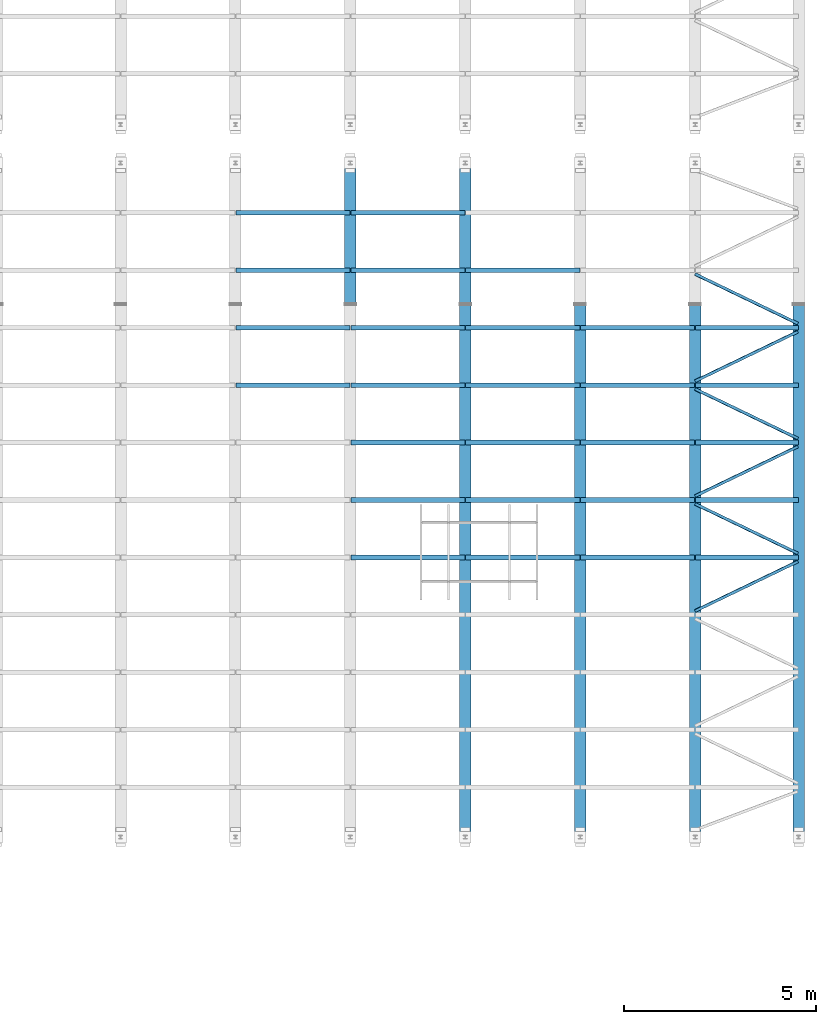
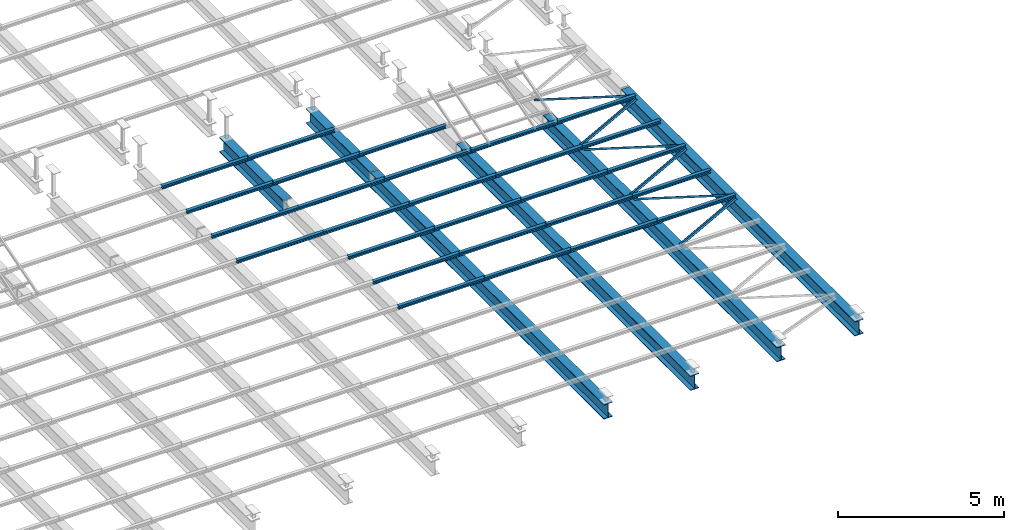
# One storey, part 76 of 139: 39 beams.
"""IFC2X3 building model written with IfcOpenShell, lengths in metres."""

from ifc_helpers import new_model, entity, si_unit, converted_unit, derived_unit, frame, origin, place, context, subcontext, project, spatial, polyline, outline, extrude, material, element, save


model = new_model("IFC2X3")

# Units and contexts
model_context = context("Model", 3, precision=1e-05, world=origin())
body_context = subcontext(model_context, "Body", "Model", "MODEL_VIEW")
ifc_project = project(units=[si_unit("LENGTHUNIT", "METRE"), si_unit("AREAUNIT", "SQUARE_METRE"), si_unit("VOLUMEUNIT", "CUBIC_METRE"), si_unit("MASSUNIT", "GRAM", prefix="KILO"), converted_unit("PLANEANGLEUNIT", "DEGREE", entity("IfcPlaneAngleMeasure", 0.0174532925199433), si_unit("PLANEANGLEUNIT", "RADIAN"), dimensions=[0, 0, 0, 0, 0, 0, 0]), derived_unit("THERMALTRANSMITTANCEUNIT", [(si_unit("POWERUNIT", "WATT"), 1), (si_unit("THERMODYNAMICTEMPERATUREUNIT", "KELVIN"), -1), (si_unit("LENGTHUNIT", "METRE"), -2)]), derived_unit("VOLUMETRICFLOWRATEUNIT", [(si_unit("LENGTHUNIT", "METRE"), 3), (converted_unit("TIMEUNIT", "hour", entity("IfcTimeMeasure", 3600.0), si_unit("TIMEUNIT", "SECOND"), dimensions=[0, 0, 1, 0, 0, 0, 0]), -1), (si_unit("LENGTHUNIT", "METRE"), -1)])], contexts=[model_context])

# Site, building, storey
site_placement = place(None, origin())
site = spatial("IfcSite", under=ifc_project, at=site_placement, Name="TWP_Speiseverteilzentrum SBW VZ II", CompositionType="ELEMENT")
building_placement = place(site_placement, origin())
building = spatial("IfcBuilding", under=site, at=building_placement, Name="Speiseverteilzentrum SBW VZ II", CompositionType="ELEMENT")
storey_placement = place(building_placement, frame((0.0, 0.0, 7.1307)))
storey = spatial("IfcBuildingStorey", under=building, at=storey_placement, Name="Wartung_FFB", CompositionType="ELEMENT", Elevation=7.1307)

# Beams
ifc_material_1 = material(Name="S235")
beam_1_placement = place(storey_placement, frame((109.050000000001, 70.0522526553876, -0.46), z_axis=(0.0, 0.0, 1.0), x_axis=(-1.0, 0.0, 0.0)))
element("IfcBeam", 1, at=beam_1_placement, inside=storey, material=ifc_material_1, Name="Stahlträger", context=body_context, shape_type="SweptSolid", body=[
    extrude(outline(polyline([(-0.15, 0.27), (-0.15, 0.246), (-0.0062499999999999, 0.246), (-0.00624999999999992, -0.246), (-0.15, -0.246), (-0.15, -0.27), (0.15, -0.27), (0.15, -0.246), (0.00625000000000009, -0.246), (0.00625000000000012, 0.246), (0.15, 0.246), (0.15, 0.27), (-0.15, 0.27)])), frame((0.0, 0.0, 0.0), z_axis=(0.0, 1.0, 0.0), x_axis=(-1.0, 0.0, 0.0)), (0.0, 0.0, 1.0), 3.81699999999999),
])
ifc_material_2 = material(Name="S235")
beam_2_placement = place(storey_placement, frame((112.050000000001, 70.0522526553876, -0.46), z_axis=(0.0, 0.0, 1.0), x_axis=(-1.0, 0.0, 0.0)))
element("IfcBeam", 2, at=beam_2_placement, inside=storey, material=ifc_material_2, Name="Stahlträger", context=body_context, shape_type="SweptSolid", body=[
    extrude(outline(polyline([(-0.15, 0.27), (-0.15, 0.246), (-0.0062499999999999, 0.246), (-0.00624999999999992, -0.246), (-0.15, -0.246), (-0.15, -0.27), (0.15, -0.27), (0.15, -0.246), (0.00625000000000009, -0.246), (0.00625000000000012, 0.246), (0.15, 0.246), (0.15, 0.27), (-0.15, 0.27)])), frame((0.0, 0.0, 0.0), z_axis=(0.0, 1.0, 0.0), x_axis=(-1.0, 0.0, 0.0)), (0.0, 0.0, 1.0), 3.81699999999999),
])
ifc_material_3 = material(Name="S235")
beam_3_placement = place(storey_placement, frame((112.050000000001, 66.1852526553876, -0.46), z_axis=(0.0, 0.0, 1.0), x_axis=(-1.0, 0.0, 0.0)))
element("IfcBeam", 3, at=beam_3_placement, inside=storey, material=ifc_material_3, Name="Stahlträger", context=body_context, shape_type="SweptSolid", body=[
    extrude(outline(polyline([(-0.15, 0.27), (-0.15, 0.246), (-0.0062499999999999, 0.246), (-0.00624999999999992, -0.246), (-0.15, -0.246), (-0.15, -0.27), (0.15, -0.27), (0.15, -0.246), (0.00625000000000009, -0.246), (0.00625000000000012, 0.246), (0.15, 0.246), (0.15, 0.27), (-0.15, 0.27)])), frame((0.0, 0.0, 0.0), z_axis=(0.0, 1.0, 0.0), x_axis=(-1.0, 0.0, 0.0)), (0.0, 0.0, 1.0), 14.0352526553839),
])
ifc_material_4 = material(Name="S235")
beam_4_placement = place(storey_placement, frame((115.050000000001, 66.1852526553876, -0.46), z_axis=(0.0, 0.0, 1.0), x_axis=(-1.0, 0.0, 0.0)))
element("IfcBeam", 4, at=beam_4_placement, inside=storey, material=ifc_material_4, Name="Stahlträger", context=body_context, shape_type="SweptSolid", body=[
    extrude(outline(polyline([(-0.15, 0.27), (-0.15, 0.246), (-0.0062499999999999, 0.246), (-0.00624999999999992, -0.246), (-0.15, -0.246), (-0.15, -0.27), (0.15, -0.27), (0.15, -0.246), (0.00625000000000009, -0.246), (0.00625000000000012, 0.246), (0.15, 0.246), (0.15, 0.27), (-0.15, 0.27)])), frame((0.0, 0.0, 0.0), z_axis=(0.0, 1.0, 0.0), x_axis=(-1.0, 0.0, 0.0)), (0.0, 0.0, 1.0), 14.0352526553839),
])
ifc_material_5 = material(Name="S235")
beam_5_placement = place(storey_placement, frame((118.050000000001, 66.1852526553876, -0.46), z_axis=(0.0, 0.0, 1.0), x_axis=(-1.0, 0.0, 0.0)))
element("IfcBeam", 5, at=beam_5_placement, inside=storey, material=ifc_material_5, Name="Stahlträger", context=body_context, shape_type="SweptSolid", body=[
    extrude(outline(polyline([(-0.15, 0.27), (-0.15, 0.246), (-0.0062499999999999, 0.246), (-0.00624999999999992, -0.246), (-0.15, -0.246), (-0.15, -0.27), (0.15, -0.27), (0.15, -0.246), (0.00625000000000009, -0.246), (0.00625000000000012, 0.246), (0.15, 0.246), (0.15, 0.27), (-0.15, 0.27)])), frame((0.0, 0.0, 0.0), z_axis=(0.0, 1.0, 0.0), x_axis=(-1.0, 0.0, 0.0)), (0.0, 0.0, 1.0), 14.0352526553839),
])
ifc_material_6 = material(Name="S235")
beam_6_placement = place(storey_placement, frame((120.750000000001, 66.1852526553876, -0.46), z_axis=(0.0, 0.0, 1.0), x_axis=(-1.0, 0.0, 0.0)))
element("IfcBeam", 6, at=beam_6_placement, inside=storey, material=ifc_material_6, Name="Stahlträger", context=body_context, shape_type="SweptSolid", body=[
    extrude(outline(polyline([(-0.15, 0.27), (-0.15, 0.246), (-0.0062499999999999, 0.246), (-0.00624999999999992, -0.246), (-0.15, -0.246), (-0.15, -0.27), (0.15, -0.27), (0.15, -0.246), (0.00625000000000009, -0.246), (0.00625000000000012, 0.246), (0.15, 0.246), (0.15, 0.27), (-0.15, 0.27)])), frame((0.0, 0.0, 0.0), z_axis=(0.0, 1.0, 0.0), x_axis=(-1.0, 0.0, 0.0)), (0.0, 0.0, 1.0), 14.0352526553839),
])
ifc_material_7 = material(Name="S235")
beam_7_placement = place(storey_placement, frame((106.060000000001, 68.6011263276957, -0.133), z_axis=(0.0, 0.0, 1.0), x_axis=(0.0, -1.0, 0.0)))
element("IfcBeam", 7, at=beam_7_placement, inside=storey, material=ifc_material_7, Name="Nebenträger", context=body_context, shape_type="SweptSolid", body=[
    extrude(outline(polyline([(-0.06, 0.0570000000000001), (-0.06, 0.0490000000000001), (-0.00249999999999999, 0.0490000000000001), (-0.0025, -0.0489999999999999), (-0.06, -0.0489999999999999), (-0.06, -0.0569999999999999), (0.06, -0.0569999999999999), (0.06, -0.0489999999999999), (0.0025, -0.0489999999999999), (0.00250000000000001, 0.0490000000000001), (0.06, 0.0490000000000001), (0.06, 0.0570000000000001), (-0.06, 0.0570000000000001)])), frame((0.0, 0.0, 0.0), z_axis=(0.0, 1.0, 0.0), x_axis=(-1.0, 0.0, 0.0)), (0.0, 0.0, 1.0), 2.98),
])
ifc_material_8 = material(Name="S235")
beam_8_placement = place(storey_placement, frame((109.060000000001, 68.6011263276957, -0.133), z_axis=(0.0, 0.0, 1.0), x_axis=(0.0, -1.0, 0.0)))
element("IfcBeam", 8, at=beam_8_placement, inside=storey, material=ifc_material_8, Name="Nebenträger", context=body_context, shape_type="SweptSolid", body=[
    extrude(outline(polyline([(-0.06, 0.0570000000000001), (-0.06, 0.0490000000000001), (-0.00249999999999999, 0.0490000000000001), (-0.0025, -0.0489999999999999), (-0.06, -0.0489999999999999), (-0.06, -0.0569999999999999), (0.06, -0.0569999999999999), (0.06, -0.0489999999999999), (0.0025, -0.0489999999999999), (0.00250000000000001, 0.0490000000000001), (0.06, 0.0490000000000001), (0.06, 0.0570000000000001), (-0.06, 0.0570000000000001)])), frame((0.0, 0.0, 0.0), z_axis=(0.0, 1.0, 0.0), x_axis=(-1.0, 0.0, 0.0)), (0.0, 0.0, 1.0), 2.98),
])
ifc_material_9 = material(Name="S235")
beam_9_placement = place(storey_placement, frame((106.060000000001, 67.1011263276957, -0.133), z_axis=(0.0, 0.0, 1.0), x_axis=(0.0, -1.0, 0.0)))
element("IfcBeam", 9, at=beam_9_placement, inside=storey, material=ifc_material_9, Name="Nebenträger", context=body_context, shape_type="SweptSolid", body=[
    extrude(outline(polyline([(-0.06, 0.0570000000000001), (-0.06, 0.0490000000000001), (-0.00249999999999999, 0.0490000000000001), (-0.0025, -0.0489999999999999), (-0.06, -0.0489999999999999), (-0.06, -0.0569999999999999), (0.06, -0.0569999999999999), (0.06, -0.0489999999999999), (0.0025, -0.0489999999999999), (0.00250000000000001, 0.0490000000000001), (0.06, 0.0490000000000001), (0.06, 0.0570000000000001), (-0.06, 0.0570000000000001)])), frame((0.0, 0.0, 0.0), z_axis=(0.0, 1.0, 0.0), x_axis=(-1.0, 0.0, 0.0)), (0.0, 0.0, 1.0), 2.98),
])
ifc_material_10 = material(Name="S235")
beam_10_placement = place(storey_placement, frame((109.060000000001, 67.1011263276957, -0.133), z_axis=(0.0, 0.0, 1.0), x_axis=(0.0, -1.0, 0.0)))
element("IfcBeam", 10, at=beam_10_placement, inside=storey, material=ifc_material_10, Name="Nebenträger", context=body_context, shape_type="SweptSolid", body=[
    extrude(outline(polyline([(-0.06, 0.0570000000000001), (-0.06, 0.0490000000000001), (-0.00249999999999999, 0.0490000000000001), (-0.0025, -0.0489999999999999), (-0.06, -0.0489999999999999), (-0.06, -0.0569999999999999), (0.06, -0.0569999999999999), (0.06, -0.0489999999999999), (0.0025, -0.0489999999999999), (0.00250000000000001, 0.0490000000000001), (0.06, 0.0490000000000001), (0.06, 0.0570000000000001), (-0.06, 0.0570000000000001)])), frame((0.0, 0.0, 0.0), z_axis=(0.0, 1.0, 0.0), x_axis=(-1.0, 0.0, 0.0)), (0.0, 0.0, 1.0), 2.98),
])
ifc_material_11 = material(Name="S235")
beam_11_placement = place(storey_placement, frame((112.060000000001, 67.1011263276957, -0.133), z_axis=(0.0, 0.0, 1.0), x_axis=(0.0, -1.0, 0.0)))
element("IfcBeam", 11, at=beam_11_placement, inside=storey, material=ifc_material_11, Name="Nebenträger", context=body_context, shape_type="SweptSolid", body=[
    extrude(outline(polyline([(-0.06, 0.0570000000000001), (-0.06, 0.0490000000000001), (-0.00249999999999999, 0.0490000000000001), (-0.0025, -0.0489999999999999), (-0.06, -0.0489999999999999), (-0.06, -0.0569999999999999), (0.06, -0.0569999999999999), (0.06, -0.0489999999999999), (0.0025, -0.0489999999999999), (0.00250000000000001, 0.0490000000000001), (0.06, 0.0490000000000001), (0.06, 0.0570000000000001), (-0.06, 0.0570000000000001)])), frame((0.0, 0.0, 0.0), z_axis=(0.0, 1.0, 0.0), x_axis=(-1.0, 0.0, 0.0)), (0.0, 0.0, 1.0), 2.98),
])
ifc_material_12 = material(Name="S235")
beam_12_placement = place(storey_placement, frame((106.060000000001, 65.6011263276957, -0.133), z_axis=(0.0, 0.0, 1.0), x_axis=(0.0, -1.0, 0.0)))
element("IfcBeam", 12, at=beam_12_placement, inside=storey, material=ifc_material_12, Name="Nebenträger", context=body_context, shape_type="SweptSolid", body=[
    extrude(outline(polyline([(-0.06, 0.0570000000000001), (-0.06, 0.0490000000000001), (-0.00249999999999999, 0.0490000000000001), (-0.0025, -0.0489999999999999), (-0.06, -0.0489999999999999), (-0.06, -0.0569999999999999), (0.06, -0.0569999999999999), (0.06, -0.0489999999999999), (0.0025, -0.0489999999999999), (0.00250000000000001, 0.0490000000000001), (0.06, 0.0490000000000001), (0.06, 0.0570000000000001), (-0.06, 0.0570000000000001)])), frame((0.0, 0.0, 0.0), z_axis=(0.0, 1.0, 0.0), x_axis=(-1.0, 0.0, 0.0)), (0.0, 0.0, 1.0), 2.98),
])
ifc_material_13 = material(Name="S235")
beam_13_placement = place(storey_placement, frame((109.060000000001, 65.6011263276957, -0.133), z_axis=(0.0, 0.0, 1.0), x_axis=(0.0, -1.0, 0.0)))
element("IfcBeam", 13, at=beam_13_placement, inside=storey, material=ifc_material_13, Name="Nebenträger", context=body_context, shape_type="SweptSolid", body=[
    extrude(outline(polyline([(-0.06, 0.0570000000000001), (-0.06, 0.0490000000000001), (-0.00249999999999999, 0.0490000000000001), (-0.0025, -0.0489999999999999), (-0.06, -0.0489999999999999), (-0.06, -0.0569999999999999), (0.06, -0.0569999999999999), (0.06, -0.0489999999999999), (0.0025, -0.0489999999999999), (0.00250000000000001, 0.0490000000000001), (0.06, 0.0490000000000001), (0.06, 0.0570000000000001), (-0.06, 0.0570000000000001)])), frame((0.0, 0.0, 0.0), z_axis=(0.0, 1.0, 0.0), x_axis=(-1.0, 0.0, 0.0)), (0.0, 0.0, 1.0), 2.98),
])
ifc_material_14 = material(Name="S235")
beam_14_placement = place(storey_placement, frame((112.060000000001, 65.6011263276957, -0.133), z_axis=(0.0, 0.0, 1.0), x_axis=(0.0, -1.0, 0.0)))
element("IfcBeam", 14, at=beam_14_placement, inside=storey, material=ifc_material_14, Name="Nebenträger", context=body_context, shape_type="SweptSolid", body=[
    extrude(outline(polyline([(-0.06, 0.0570000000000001), (-0.06, 0.0490000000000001), (-0.00249999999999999, 0.0490000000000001), (-0.0025, -0.0489999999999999), (-0.06, -0.0489999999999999), (-0.06, -0.0569999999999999), (0.06, -0.0569999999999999), (0.06, -0.0489999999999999), (0.0025, -0.0489999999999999), (0.00250000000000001, 0.0490000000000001), (0.06, 0.0490000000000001), (0.06, 0.0570000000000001), (-0.06, 0.0570000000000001)])), frame((0.0, 0.0, 0.0), z_axis=(0.0, 1.0, 0.0), x_axis=(-1.0, 0.0, 0.0)), (0.0, 0.0, 1.0), 2.98),
])
ifc_material_15 = material(Name="S235")
beam_15_placement = place(storey_placement, frame((115.060000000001, 65.6011263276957, -0.133), z_axis=(0.0, 0.0, 1.0), x_axis=(0.0, -1.0, 0.0)))
element("IfcBeam", 15, at=beam_15_placement, inside=storey, material=ifc_material_15, Name="Nebenträger", context=body_context, shape_type="SweptSolid", body=[
    extrude(outline(polyline([(-0.06, 0.0570000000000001), (-0.06, 0.0490000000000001), (-0.00249999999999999, 0.0490000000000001), (-0.0025, -0.0489999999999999), (-0.06, -0.0489999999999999), (-0.06, -0.0569999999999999), (0.06, -0.0569999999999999), (0.06, -0.0489999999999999), (0.0025, -0.0489999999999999), (0.00250000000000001, 0.0490000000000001), (0.06, 0.0490000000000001), (0.06, 0.0570000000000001), (-0.06, 0.0570000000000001)])), frame((0.0, 0.0, 0.0), z_axis=(0.0, 1.0, 0.0), x_axis=(-1.0, 0.0, 0.0)), (0.0, 0.0, 1.0), 2.98),
])
ifc_material_16 = material(Name="S235")
beam_16_placement = place(storey_placement, frame((106.060000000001, 64.1011263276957, -0.133), z_axis=(0.0, 0.0, 1.0), x_axis=(0.0, -1.0, 0.0)))
element("IfcBeam", 16, at=beam_16_placement, inside=storey, material=ifc_material_16, Name="Nebenträger", context=body_context, shape_type="SweptSolid", body=[
    extrude(outline(polyline([(-0.06, 0.0570000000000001), (-0.06, 0.0490000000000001), (-0.00249999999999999, 0.0490000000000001), (-0.0025, -0.0489999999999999), (-0.06, -0.0489999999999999), (-0.06, -0.0569999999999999), (0.06, -0.0569999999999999), (0.06, -0.0489999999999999), (0.0025, -0.0489999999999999), (0.00250000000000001, 0.0490000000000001), (0.06, 0.0490000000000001), (0.06, 0.0570000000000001), (-0.06, 0.0570000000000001)])), frame((0.0, 0.0, 0.0), z_axis=(0.0, 1.0, 0.0), x_axis=(-1.0, 0.0, 0.0)), (0.0, 0.0, 1.0), 2.98),
])
ifc_material_17 = material(Name="S235")
beam_17_placement = place(storey_placement, frame((109.060000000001, 64.1011263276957, -0.133), z_axis=(0.0, 0.0, 1.0), x_axis=(0.0, -1.0, 0.0)))
element("IfcBeam", 17, at=beam_17_placement, inside=storey, material=ifc_material_17, Name="Nebenträger", context=body_context, shape_type="SweptSolid", body=[
    extrude(outline(polyline([(-0.06, 0.0570000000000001), (-0.06, 0.0490000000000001), (-0.00249999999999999, 0.0490000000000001), (-0.0025, -0.0489999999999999), (-0.06, -0.0489999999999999), (-0.06, -0.0569999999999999), (0.06, -0.0569999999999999), (0.06, -0.0489999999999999), (0.0025, -0.0489999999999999), (0.00250000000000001, 0.0490000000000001), (0.06, 0.0490000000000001), (0.06, 0.0570000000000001), (-0.06, 0.0570000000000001)])), frame((0.0, 0.0, 0.0), z_axis=(0.0, 1.0, 0.0), x_axis=(-1.0, 0.0, 0.0)), (0.0, 0.0, 1.0), 2.98),
])
ifc_material_18 = material(Name="S235")
beam_18_placement = place(storey_placement, frame((112.060000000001, 64.1011263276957, -0.133), z_axis=(0.0, 0.0, 1.0), x_axis=(0.0, -1.0, 0.0)))
element("IfcBeam", 18, at=beam_18_placement, inside=storey, material=ifc_material_18, Name="Nebenträger", context=body_context, shape_type="SweptSolid", body=[
    extrude(outline(polyline([(-0.06, 0.0570000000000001), (-0.06, 0.0490000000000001), (-0.00249999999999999, 0.0490000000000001), (-0.0025, -0.0489999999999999), (-0.06, -0.0489999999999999), (-0.06, -0.0569999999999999), (0.06, -0.0569999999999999), (0.06, -0.0489999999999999), (0.0025, -0.0489999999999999), (0.00250000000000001, 0.0490000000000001), (0.06, 0.0490000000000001), (0.06, 0.0570000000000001), (-0.06, 0.0570000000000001)])), frame((0.0, 0.0, 0.0), z_axis=(0.0, 1.0, 0.0), x_axis=(-1.0, 0.0, 0.0)), (0.0, 0.0, 1.0), 2.98),
])
ifc_material_19 = material(Name="S235")
beam_19_placement = place(storey_placement, frame((115.060000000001, 64.1011263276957, -0.133), z_axis=(0.0, 0.0, 1.0), x_axis=(0.0, -1.0, 0.0)))
element("IfcBeam", 19, at=beam_19_placement, inside=storey, material=ifc_material_19, Name="Nebenträger", context=body_context, shape_type="SweptSolid", body=[
    extrude(outline(polyline([(-0.06, 0.0570000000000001), (-0.06, 0.0490000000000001), (-0.00249999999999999, 0.0490000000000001), (-0.0025, -0.0489999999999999), (-0.06, -0.0489999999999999), (-0.06, -0.0569999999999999), (0.06, -0.0569999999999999), (0.06, -0.0489999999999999), (0.0025, -0.0489999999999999), (0.00250000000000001, 0.0490000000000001), (0.06, 0.0490000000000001), (0.06, 0.0570000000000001), (-0.06, 0.0570000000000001)])), frame((0.0, 0.0, 0.0), z_axis=(0.0, 1.0, 0.0), x_axis=(-1.0, 0.0, 0.0)), (0.0, 0.0, 1.0), 2.98),
])
ifc_material_20 = material(Name="S235")
beam_20_placement = place(storey_placement, frame((109.060000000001, 62.6011263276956, -0.133), z_axis=(0.0, 0.0, 1.0), x_axis=(0.0, -1.0, 0.0)))
element("IfcBeam", 20, at=beam_20_placement, inside=storey, material=ifc_material_20, Name="Nebenträger", context=body_context, shape_type="SweptSolid", body=[
    extrude(outline(polyline([(-0.06, 0.0570000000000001), (-0.06, 0.0490000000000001), (-0.00249999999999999, 0.0490000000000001), (-0.0025, -0.0489999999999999), (-0.06, -0.0489999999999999), (-0.06, -0.0569999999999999), (0.06, -0.0569999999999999), (0.06, -0.0489999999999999), (0.0025, -0.0489999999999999), (0.00250000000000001, 0.0490000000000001), (0.06, 0.0490000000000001), (0.06, 0.0570000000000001), (-0.06, 0.0570000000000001)])), frame((0.0, 0.0, 0.0), z_axis=(0.0, 1.0, 0.0), x_axis=(-1.0, 0.0, 0.0)), (0.0, 0.0, 1.0), 2.98),
])
ifc_material_21 = material(Name="S235")
beam_21_placement = place(storey_placement, frame((112.060000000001, 62.6011263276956, -0.133), z_axis=(0.0, 0.0, 1.0), x_axis=(0.0, -1.0, 0.0)))
element("IfcBeam", 21, at=beam_21_placement, inside=storey, material=ifc_material_21, Name="Nebenträger", context=body_context, shape_type="SweptSolid", body=[
    extrude(outline(polyline([(-0.06, 0.0570000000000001), (-0.06, 0.0490000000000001), (-0.00249999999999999, 0.0490000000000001), (-0.0025, -0.0489999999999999), (-0.06, -0.0489999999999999), (-0.06, -0.0569999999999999), (0.06, -0.0569999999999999), (0.06, -0.0489999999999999), (0.0025, -0.0489999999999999), (0.00250000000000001, 0.0490000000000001), (0.06, 0.0490000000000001), (0.06, 0.0570000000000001), (-0.06, 0.0570000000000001)])), frame((0.0, 0.0, 0.0), z_axis=(0.0, 1.0, 0.0), x_axis=(-1.0, 0.0, 0.0)), (0.0, 0.0, 1.0), 2.98),
])
ifc_material_22 = material(Name="S235")
beam_22_placement = place(storey_placement, frame((115.060000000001, 62.6011263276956, -0.133), z_axis=(0.0, 0.0, 1.0), x_axis=(0.0, -1.0, 0.0)))
element("IfcBeam", 22, at=beam_22_placement, inside=storey, material=ifc_material_22, Name="Nebenträger", context=body_context, shape_type="SweptSolid", body=[
    extrude(outline(polyline([(-0.06, 0.0570000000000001), (-0.06, 0.0490000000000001), (-0.00249999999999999, 0.0490000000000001), (-0.0025, -0.0489999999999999), (-0.06, -0.0489999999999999), (-0.06, -0.0569999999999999), (0.06, -0.0569999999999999), (0.06, -0.0489999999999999), (0.0025, -0.0489999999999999), (0.00250000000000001, 0.0490000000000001), (0.06, 0.0490000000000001), (0.06, 0.0570000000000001), (-0.06, 0.0570000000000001)])), frame((0.0, 0.0, 0.0), z_axis=(0.0, 1.0, 0.0), x_axis=(-1.0, 0.0, 0.0)), (0.0, 0.0, 1.0), 2.98),
])
ifc_material_23 = material(Name="S235")
beam_23_placement = place(storey_placement, frame((109.060000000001, 61.1011263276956, -0.133), z_axis=(0.0, 0.0, 1.0), x_axis=(0.0, -1.0, 0.0)))
element("IfcBeam", 23, at=beam_23_placement, inside=storey, material=ifc_material_23, Name="Nebenträger", context=body_context, shape_type="SweptSolid", body=[
    extrude(outline(polyline([(-0.06, 0.0570000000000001), (-0.06, 0.0490000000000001), (-0.00249999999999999, 0.0490000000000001), (-0.0025, -0.0489999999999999), (-0.06, -0.0489999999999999), (-0.06, -0.0569999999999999), (0.06, -0.0569999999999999), (0.06, -0.0489999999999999), (0.0025, -0.0489999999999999), (0.00250000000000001, 0.0490000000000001), (0.06, 0.0490000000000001), (0.06, 0.0570000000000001), (-0.06, 0.0570000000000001)])), frame((0.0, 0.0, 0.0), z_axis=(0.0, 1.0, 0.0), x_axis=(-1.0, 0.0, 0.0)), (0.0, 0.0, 1.0), 2.98),
])
ifc_material_24 = material(Name="S235")
beam_24_placement = place(storey_placement, frame((112.060000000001, 61.1011263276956, -0.133), z_axis=(0.0, 0.0, 1.0), x_axis=(0.0, -1.0, 0.0)))
element("IfcBeam", 24, at=beam_24_placement, inside=storey, material=ifc_material_24, Name="Nebenträger", context=body_context, shape_type="SweptSolid", body=[
    extrude(outline(polyline([(-0.06, 0.0570000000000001), (-0.06, 0.0490000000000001), (-0.00249999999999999, 0.0490000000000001), (-0.0025, -0.0489999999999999), (-0.06, -0.0489999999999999), (-0.06, -0.0569999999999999), (0.06, -0.0569999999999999), (0.06, -0.0489999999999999), (0.0025, -0.0489999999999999), (0.00250000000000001, 0.0490000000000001), (0.06, 0.0490000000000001), (0.06, 0.0570000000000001), (-0.06, 0.0570000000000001)])), frame((0.0, 0.0, 0.0), z_axis=(0.0, 1.0, 0.0), x_axis=(-1.0, 0.0, 0.0)), (0.0, 0.0, 1.0), 2.98),
])
ifc_material_25 = material(Name="S235")
beam_25_placement = place(storey_placement, frame((115.060000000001, 61.1011263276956, -0.133), z_axis=(0.0, 0.0, 1.0), x_axis=(0.0, -1.0, 0.0)))
element("IfcBeam", 25, at=beam_25_placement, inside=storey, material=ifc_material_25, Name="Nebenträger", context=body_context, shape_type="SweptSolid", body=[
    extrude(outline(polyline([(-0.06, 0.0570000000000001), (-0.06, 0.0490000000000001), (-0.00249999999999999, 0.0490000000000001), (-0.0025, -0.0489999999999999), (-0.06, -0.0489999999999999), (-0.06, -0.0569999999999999), (0.06, -0.0569999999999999), (0.06, -0.0489999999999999), (0.0025, -0.0489999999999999), (0.00250000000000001, 0.0490000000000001), (0.06, 0.0490000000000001), (0.06, 0.0570000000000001), (-0.06, 0.0570000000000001)])), frame((0.0, 0.0, 0.0), z_axis=(0.0, 1.0, 0.0), x_axis=(-1.0, 0.0, 0.0)), (0.0, 0.0, 1.0), 2.98),
])
ifc_material_26 = material(Name="S235")
beam_26_placement = place(storey_placement, frame((109.060000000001, 59.6011263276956, -0.133), z_axis=(0.0, 0.0, 1.0), x_axis=(0.0, -1.0, 0.0)))
element("IfcBeam", 26, at=beam_26_placement, inside=storey, material=ifc_material_26, Name="Nebenträger", context=body_context, shape_type="SweptSolid", body=[
    extrude(outline(polyline([(-0.06, 0.0570000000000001), (-0.06, 0.0490000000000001), (-0.00249999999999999, 0.0490000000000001), (-0.0025, -0.0489999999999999), (-0.06, -0.0489999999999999), (-0.06, -0.0569999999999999), (0.06, -0.0569999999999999), (0.06, -0.0489999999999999), (0.0025, -0.0489999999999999), (0.00250000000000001, 0.0490000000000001), (0.06, 0.0490000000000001), (0.06, 0.0570000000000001), (-0.06, 0.0570000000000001)])), frame((0.0, 0.0, 0.0), z_axis=(0.0, 1.0, 0.0), x_axis=(-1.0, 0.0, 0.0)), (0.0, 0.0, 1.0), 2.98),
])
ifc_material_27 = material(Name="S235")
beam_27_placement = place(storey_placement, frame((112.060000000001, 59.6011263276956, -0.133), z_axis=(0.0, 0.0, 1.0), x_axis=(0.0, -1.0, 0.0)))
element("IfcBeam", 27, at=beam_27_placement, inside=storey, material=ifc_material_27, Name="Nebenträger", context=body_context, shape_type="SweptSolid", body=[
    extrude(outline(polyline([(-0.06, 0.0570000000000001), (-0.06, 0.0490000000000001), (-0.00249999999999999, 0.0490000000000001), (-0.0025, -0.0489999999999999), (-0.06, -0.0489999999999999), (-0.06, -0.0569999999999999), (0.06, -0.0569999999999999), (0.06, -0.0489999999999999), (0.0025, -0.0489999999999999), (0.00250000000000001, 0.0490000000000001), (0.06, 0.0490000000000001), (0.06, 0.0570000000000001), (-0.06, 0.0570000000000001)])), frame((0.0, 0.0, 0.0), z_axis=(0.0, 1.0, 0.0), x_axis=(-1.0, 0.0, 0.0)), (0.0, 0.0, 1.0), 2.98),
])
ifc_material_28 = material(Name="S235")
beam_28_placement = place(storey_placement, frame((115.060000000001, 59.6011263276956, -0.133), z_axis=(0.0, 0.0, 1.0), x_axis=(0.0, -1.0, 0.0)))
element("IfcBeam", 28, at=beam_28_placement, inside=storey, material=ifc_material_28, Name="Nebenträger", context=body_context, shape_type="SweptSolid", body=[
    extrude(outline(polyline([(-0.06, 0.0570000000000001), (-0.06, 0.0490000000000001), (-0.00249999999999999, 0.0490000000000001), (-0.0025, -0.0489999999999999), (-0.06, -0.0489999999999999), (-0.06, -0.0569999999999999), (0.06, -0.0569999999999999), (0.06, -0.0489999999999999), (0.0025, -0.0489999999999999), (0.00250000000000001, 0.0490000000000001), (0.06, 0.0490000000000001), (0.06, 0.0570000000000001), (-0.06, 0.0570000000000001)])), frame((0.0, 0.0, 0.0), z_axis=(0.0, 1.0, 0.0), x_axis=(-1.0, 0.0, 0.0)), (0.0, 0.0, 1.0), 2.98),
])
ifc_material_29 = material(Name="S235")
beam_29_placement = place(storey_placement, frame((118.060000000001, 65.6011263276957, -0.133), z_axis=(0.0, 0.0, 1.0), x_axis=(0.0, -1.0, 0.0)))
element("IfcBeam", 29, at=beam_29_placement, inside=storey, material=ifc_material_29, Name="Nebenträger", context=body_context, shape_type="SweptSolid", body=[
    extrude(outline(polyline([(-0.06, 0.0570000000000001), (-0.06, 0.0490000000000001), (-0.00249999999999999, 0.0490000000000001), (-0.0025, -0.0489999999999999), (-0.06, -0.0489999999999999), (-0.06, -0.0569999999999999), (0.06, -0.0569999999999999), (0.06, -0.0489999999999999), (0.0025, -0.0489999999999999), (0.00250000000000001, 0.0490000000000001), (0.06, 0.0490000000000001), (0.06, 0.0570000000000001), (-0.06, 0.0570000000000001)])), frame((0.0, 0.0, 0.0), z_axis=(0.0, 1.0, 0.0), x_axis=(-1.0, 0.0, 0.0)), (0.0, 0.0, 1.0), 2.69),
])
ifc_material_30 = material(Name="S235")
beam_30_placement = place(storey_placement, frame((118.060000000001, 64.1011263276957, -0.133), z_axis=(0.0, 0.0, 1.0), x_axis=(0.0, -1.0, 0.0)))
element("IfcBeam", 30, at=beam_30_placement, inside=storey, material=ifc_material_30, Name="Nebenträger", context=body_context, shape_type="SweptSolid", body=[
    extrude(outline(polyline([(-0.06, 0.0570000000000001), (-0.06, 0.0490000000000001), (-0.00249999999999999, 0.0490000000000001), (-0.0025, -0.0489999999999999), (-0.06, -0.0489999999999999), (-0.06, -0.0569999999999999), (0.06, -0.0569999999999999), (0.06, -0.0489999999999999), (0.0025, -0.0489999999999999), (0.00250000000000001, 0.0490000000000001), (0.06, 0.0490000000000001), (0.06, 0.0570000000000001), (-0.06, 0.0570000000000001)])), frame((0.0, 0.0, 0.0), z_axis=(0.0, 1.0, 0.0), x_axis=(-1.0, 0.0, 0.0)), (0.0, 0.0, 1.0), 2.69),
])
ifc_material_31 = material(Name="S235")
beam_31_placement = place(storey_placement, frame((118.060000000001, 62.6011263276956, -0.133), z_axis=(0.0, 0.0, 1.0), x_axis=(0.0, -1.0, 0.0)))
element("IfcBeam", 31, at=beam_31_placement, inside=storey, material=ifc_material_31, Name="Nebenträger", context=body_context, shape_type="SweptSolid", body=[
    extrude(outline(polyline([(-0.06, 0.0570000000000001), (-0.06, 0.0490000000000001), (-0.00249999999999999, 0.0490000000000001), (-0.0025, -0.0489999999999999), (-0.06, -0.0489999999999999), (-0.06, -0.0569999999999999), (0.06, -0.0569999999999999), (0.06, -0.0489999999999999), (0.0025, -0.0489999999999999), (0.00250000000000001, 0.0490000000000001), (0.06, 0.0490000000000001), (0.06, 0.0570000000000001), (-0.06, 0.0570000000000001)])), frame((0.0, 0.0, 0.0), z_axis=(0.0, 1.0, 0.0), x_axis=(-1.0, 0.0, 0.0)), (0.0, 0.0, 1.0), 2.69),
])
ifc_material_32 = material(Name="S235")
beam_32_placement = place(storey_placement, frame((118.060000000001, 61.1011263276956, -0.133), z_axis=(0.0, 0.0, 1.0), x_axis=(0.0, -1.0, 0.0)))
element("IfcBeam", 32, at=beam_32_placement, inside=storey, material=ifc_material_32, Name="Nebenträger", context=body_context, shape_type="SweptSolid", body=[
    extrude(outline(polyline([(-0.06, 0.0570000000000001), (-0.06, 0.0490000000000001), (-0.00249999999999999, 0.0490000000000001), (-0.0025, -0.0489999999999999), (-0.06, -0.0489999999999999), (-0.06, -0.0569999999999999), (0.06, -0.0569999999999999), (0.06, -0.0489999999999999), (0.0025, -0.0489999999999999), (0.00250000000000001, 0.0490000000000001), (0.06, 0.0490000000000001), (0.06, 0.0570000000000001), (-0.06, 0.0570000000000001)])), frame((0.0, 0.0, 0.0), z_axis=(0.0, 1.0, 0.0), x_axis=(-1.0, 0.0, 0.0)), (0.0, 0.0, 1.0), 2.69),
])
ifc_material_33 = material(Name="S235")
beam_33_placement = place(storey_placement, frame((118.060000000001, 59.6011263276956, -0.133), z_axis=(0.0, 0.0, 1.0), x_axis=(0.0, -1.0, 0.0)))
element("IfcBeam", 33, at=beam_33_placement, inside=storey, material=ifc_material_33, Name="Nebenträger", context=body_context, shape_type="SweptSolid", body=[
    extrude(outline(polyline([(-0.06, 0.0570000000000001), (-0.06, 0.0490000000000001), (-0.00249999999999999, 0.0490000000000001), (-0.0025, -0.0489999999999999), (-0.06, -0.0489999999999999), (-0.06, -0.0569999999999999), (0.06, -0.0569999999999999), (0.06, -0.0489999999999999), (0.0025, -0.0489999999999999), (0.00250000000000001, 0.0490000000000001), (0.06, 0.0490000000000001), (0.06, 0.0570000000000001), (-0.06, 0.0570000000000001)])), frame((0.0, 0.0, 0.0), z_axis=(0.0, 1.0, 0.0), x_axis=(-1.0, 0.0, 0.0)), (0.0, 0.0, 1.0), 2.69),
])
ifc_material_34 = material(Name="S235")
beam_34_placement = place(storey_placement, frame((118.038542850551, 66.98371288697, -0.167052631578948), z_axis=(0.0, 0.0, 1.0), x_axis=(-0.434138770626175, -0.900846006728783, 0.0)))
element("IfcBeam", 34, at=beam_34_placement, inside=storey, material=ifc_material_34, Name="Kreuzverband", context=body_context, shape_type="SweptSolid", body=[
    extrude(outline(polyline([(0.0570526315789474, -0.0229473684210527), (0.0570526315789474, -0.0149473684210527), (-0.0149473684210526, -0.0149473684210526), (-0.0149473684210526, 0.0570526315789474), (-0.0229473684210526, 0.0570526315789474), (-0.0229473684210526, -0.0229473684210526), (0.0570526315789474, -0.0229473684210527)])), frame((0.0, 0.0, 0.0), z_axis=(0.0, 1.0, 0.0), x_axis=(-1.0, 0.0, 0.0)), (0.0, 0.0, 1.0), 2.9821961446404),
])
ifc_material_35 = material(Name="S235")
beam_35_placement = place(storey_placement, frame((118.038542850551, 64.2185397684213, -0.167052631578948), z_axis=(0.0, 0.0, 1.0), x_axis=(0.434138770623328, -0.900846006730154, 0.0)))
element("IfcBeam", 35, at=beam_35_placement, inside=storey, material=ifc_material_35, Name="Kreuzverband", context=body_context, shape_type="SweptSolid", body=[
    extrude(outline(polyline([(0.0229473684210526, -0.0229473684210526), (0.0229473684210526, 0.0570526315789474), (0.0149473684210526, 0.0570526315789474), (0.0149473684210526, -0.0149473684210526), (-0.0570526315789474, -0.0149473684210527), (-0.0570526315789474, -0.0229473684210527), (0.0229473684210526, -0.0229473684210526)])), frame((0.0, 0.0, 0.0), z_axis=(0.0, 0.999999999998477, 0.0), x_axis=(-1.0, 0.0, 0.0)), (0.0, 0.0, 1.0), 2.9821961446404),
])
ifc_material_36 = material(Name="S235")
beam_36_placement = place(storey_placement, frame((118.038542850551, 63.98371288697, -0.167052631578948), z_axis=(0.0, 0.0, 1.0), x_axis=(-0.434138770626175, -0.900846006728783, 0.0)))
element("IfcBeam", 36, at=beam_36_placement, inside=storey, material=ifc_material_36, Name="Kreuzverband", context=body_context, shape_type="SweptSolid", body=[
    extrude(outline(polyline([(0.0570526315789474, -0.0229473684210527), (0.0570526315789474, -0.0149473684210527), (-0.0149473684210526, -0.0149473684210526), (-0.0149473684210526, 0.0570526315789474), (-0.0229473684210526, 0.0570526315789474), (-0.0229473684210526, -0.0229473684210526), (0.0570526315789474, -0.0229473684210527)])), frame((0.0, 0.0, 0.0), z_axis=(0.0, 1.0, 0.0), x_axis=(-1.0, 0.0, 0.0)), (0.0, 0.0, 1.0), 2.9821961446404),
])
ifc_material_37 = material(Name="S235")
beam_37_placement = place(storey_placement, frame((118.038542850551, 61.2185397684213, -0.167052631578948), z_axis=(0.0, 0.0, 1.0), x_axis=(0.434138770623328, -0.900846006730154, 0.0)))
element("IfcBeam", 37, at=beam_37_placement, inside=storey, material=ifc_material_37, Name="Kreuzverband", context=body_context, shape_type="SweptSolid", body=[
    extrude(outline(polyline([(0.0229473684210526, -0.0229473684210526), (0.0229473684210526, 0.0570526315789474), (0.0149473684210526, 0.0570526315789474), (0.0149473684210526, -0.0149473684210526), (-0.0570526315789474, -0.0149473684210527), (-0.0570526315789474, -0.0229473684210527), (0.0229473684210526, -0.0229473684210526)])), frame((0.0, 0.0, 0.0), z_axis=(0.0, 0.999999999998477, 0.0), x_axis=(-1.0, 0.0, 0.0)), (0.0, 0.0, 1.0), 2.9821961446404),
])
ifc_material_38 = material(Name="S235")
beam_38_placement = place(storey_placement, frame((118.038542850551, 60.98371288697, -0.167052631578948), z_axis=(0.0, 0.0, 1.0), x_axis=(-0.434138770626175, -0.900846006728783, 0.0)))
element("IfcBeam", 38, at=beam_38_placement, inside=storey, material=ifc_material_38, Name="Kreuzverband", context=body_context, shape_type="SweptSolid", body=[
    extrude(outline(polyline([(0.0570526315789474, -0.0229473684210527), (0.0570526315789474, -0.0149473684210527), (-0.0149473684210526, -0.0149473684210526), (-0.0149473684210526, 0.0570526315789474), (-0.0229473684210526, 0.0570526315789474), (-0.0229473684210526, -0.0229473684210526), (0.0570526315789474, -0.0229473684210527)])), frame((0.0, 0.0, 0.0), z_axis=(0.0, 1.0, 0.0), x_axis=(-1.0, 0.0, 0.0)), (0.0, 0.0, 1.0), 2.9821961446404),
])
ifc_material_39 = material(Name="S235")
beam_39_placement = place(storey_placement, frame((118.038542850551, 58.2185397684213, -0.167052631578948), z_axis=(0.0, 0.0, 1.0), x_axis=(0.434138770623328, -0.900846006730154, 0.0)))
element("IfcBeam", 39, at=beam_39_placement, inside=storey, material=ifc_material_39, Name="Kreuzverband", context=body_context, shape_type="SweptSolid", body=[
    extrude(outline(polyline([(0.0229473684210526, -0.0229473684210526), (0.0229473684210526, 0.0570526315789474), (0.0149473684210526, 0.0570526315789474), (0.0149473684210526, -0.0149473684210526), (-0.0570526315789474, -0.0149473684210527), (-0.0570526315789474, -0.0229473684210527), (0.0229473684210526, -0.0229473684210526)])), frame((0.0, 0.0, 0.0), z_axis=(0.0, 0.999999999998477, 0.0), x_axis=(-1.0, 0.0, 0.0)), (0.0, 0.0, 1.0), 2.9821961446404),
])

save(model, "model.ifc")
